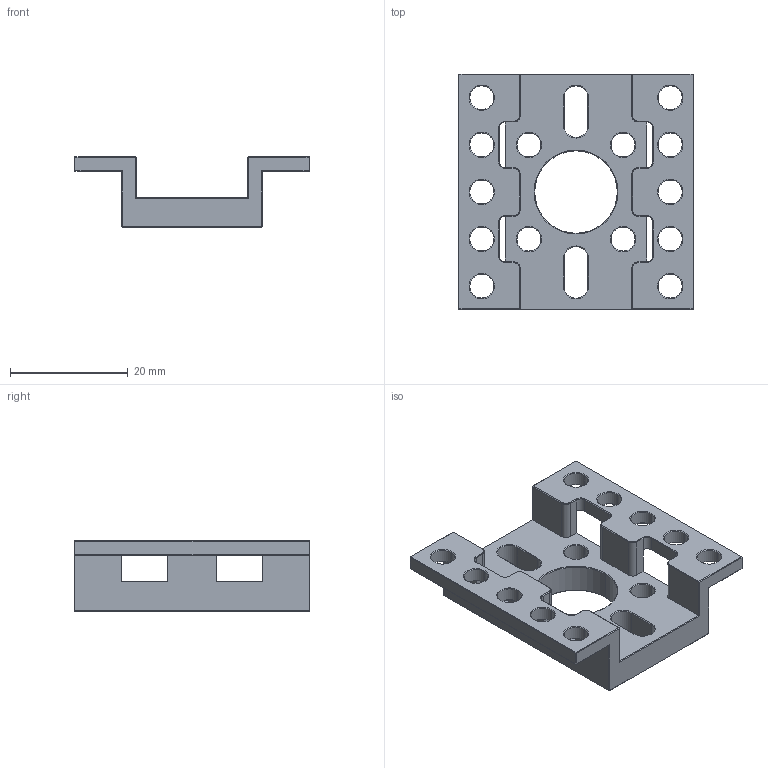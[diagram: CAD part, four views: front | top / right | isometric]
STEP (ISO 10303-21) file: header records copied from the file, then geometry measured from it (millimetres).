
FILE_DESCRIPTION (( 'STEP AP203' ), '1' );
FILE_NAME ('1208-0001-0001.STEP', '2023-02-17T16:41:38', ( '' ), ( '' ), 'SwSTEP 2.0', 'SolidWorks 2016', '' );
FILE_SCHEMA (( 'CONFIG_CONTROL_DESIGN' ));
Length unit declared in the file: millimetre
Products named in the file (1): 1208-0001-0001
Bounding box: 40 x 40 x 12 mm (x, y, z)
Volume: 5491.7 mm3; surface area: 5034.5 mm2
Topology: 1 solids, 1 shells, 240 faces, 570 edges, 324 vertices
Faces by surface type: plane 106, cone 84, cylinder 50
Entity records: 6899 total; most frequent: DIRECTION 1240, ORIENTED_EDGE 1140, CARTESIAN_POINT 1135, EDGE_CURVE 570, AXIS2_PLACEMENT_3D 429, VECTOR 382, LINE 382, VERTEX_POINT 324
